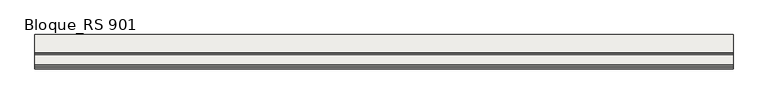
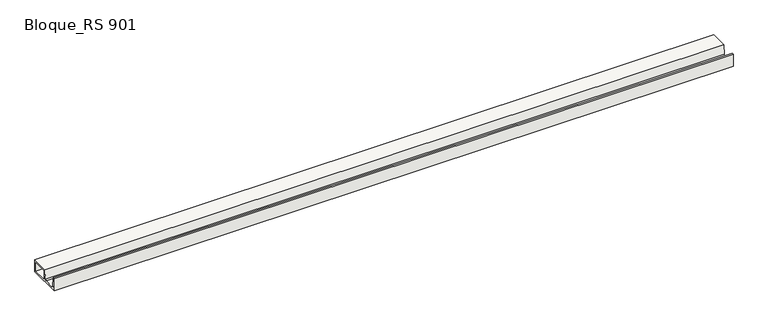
"""IFC4 building model written with IfcOpenShell, lengths in millimetres: slab geometry, ROSA GRES_RS 901 : Bloque_RS 901."""

from ifc_helpers import new_model, si_unit, point, frame, frame_2d, origin, place, context, project, spatial, polyline, circle_curve, trimmed, segment, composite_curve, outline, extrude, source, transform, mapped, element, save


def bloque_rs_901_02d4d146(model_context):
    return source(origin(), model_context, "Body", "SweptSolid", [
        extrude(outline(composite_curve([segment(polyline([(-12.836227, 188.7539108), (-12.836227, 1.7539108), (-508.836227, 1.7539108), (-508.836227, 188.7539108), (-481.967602, 188.7539108), (-468.4315983, 49.1487962)]), True, "CONTINUOUS"), segment(trimmed(circle_curve(frame_2d((-448.7892677, 51.599206)), 19.7945866), [point((-468.4315983, 49.1487962))], [point((-448.3978535, 31.8084896))], True, "CARTESIAN"), True, "CONTINUOUS"), segment(polyline([(-448.3978535, 31.8084896), (-302.2746005, 31.8084896)]), True, "CONTINUOUS"), segment(trimmed(circle_curve(frame_2d((-301.8831862, 51.599206)), 19.7945866), [point((-302.2746005, 31.8084896))], [point((-282.2408556, 49.1487962))], True, "CARTESIAN"), True, "CONTINUOUS"), segment(polyline([(-282.2408556, 49.1487962), (-268.704852, 188.7539108), (-12.836227, 188.7539108)]), True, "CONTINUOUS")], self_intersect=False), holes=[polyline([(-241.836227, 158.7539108), (-241.836227, 26.7539108), (-37.836227, 26.7539108), (-37.836227, 158.7539108), (-241.836227, 158.7539108)])]), frame((0.0, 0.0, 0.0), z_axis=(1.0, 0.0, 0.0), x_axis=(0.0, 1.0, 0.0)), (0.0, 0.0, 1.0), 10035.0446068),
    ])


if __name__ == "__main__":
    model = new_model("IFC4")
    model_context = context("Model", 3, world=origin())
    ifc_project = project(units=[si_unit("LENGTHUNIT", "METRE", prefix="MILLI")], contexts=[model_context])
    site = spatial("IfcSite", under=ifc_project)
    building = spatial("IfcBuilding", under=site)
    placement = place(None, origin())
    bloque_rs_901_shape = bloque_rs_901_02d4d146(model_context)
    element("IfcSlab", 1, ObjectType="ROSA GRES_RS 901 : Bloque_RS 901", at=placement, inside=building, context=model_context, shape_type="MappedRepresentation", body=[
        mapped(bloque_rs_901_shape, transform((0.0, 0.0, 0.0), x_axis=(1.0, 0.0, 0.0), y_axis=(0.0, 1.0, 0.0), z_axis=(0.0, 0.0, 1.0))),
    ])
    save(model, "model.ifc")
